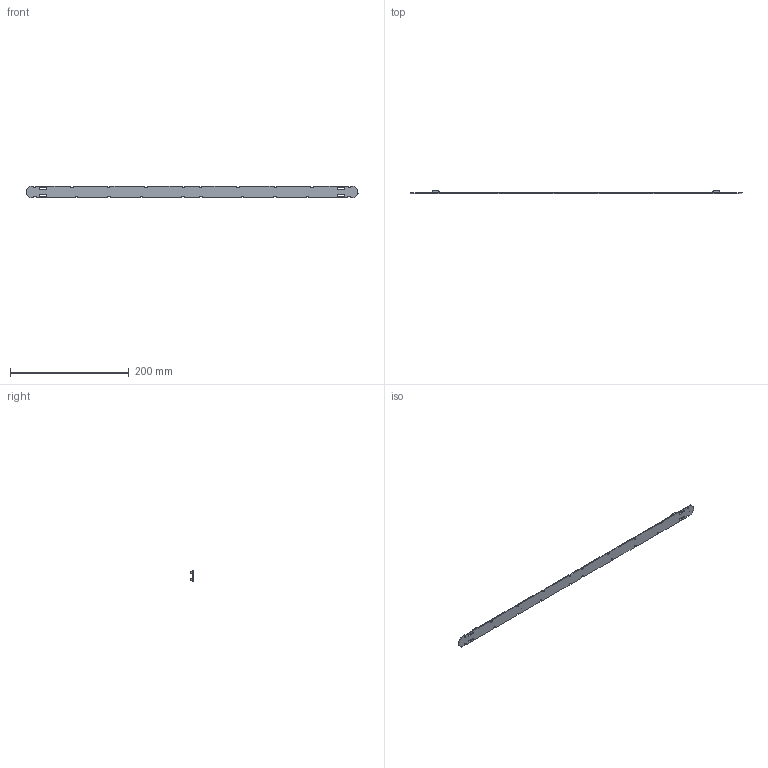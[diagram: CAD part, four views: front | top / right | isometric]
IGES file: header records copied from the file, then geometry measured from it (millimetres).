
Start section: SolidWorks IGES file using analytic representation for surfaces
Global section: file name: D:\ECTR_TEMP\OLQ-batchEngine\queue\temp\4162938swm000.igs; native system: SolidWorks 2017; preprocessor: SolidWorks 2017; author: SYSTEM; date: 200219.142902; units: millimetre
Bounding box: 559.5 x 5.55 x 20 mm (x, y, z)
Surface area: 26560.3 mm2 (no closed solid volume)
Topology: 0 solids, 0 shells, 1782 faces, 11016 edges, 11012 vertices
Faces by surface type: bspline 1598, revolution 184
